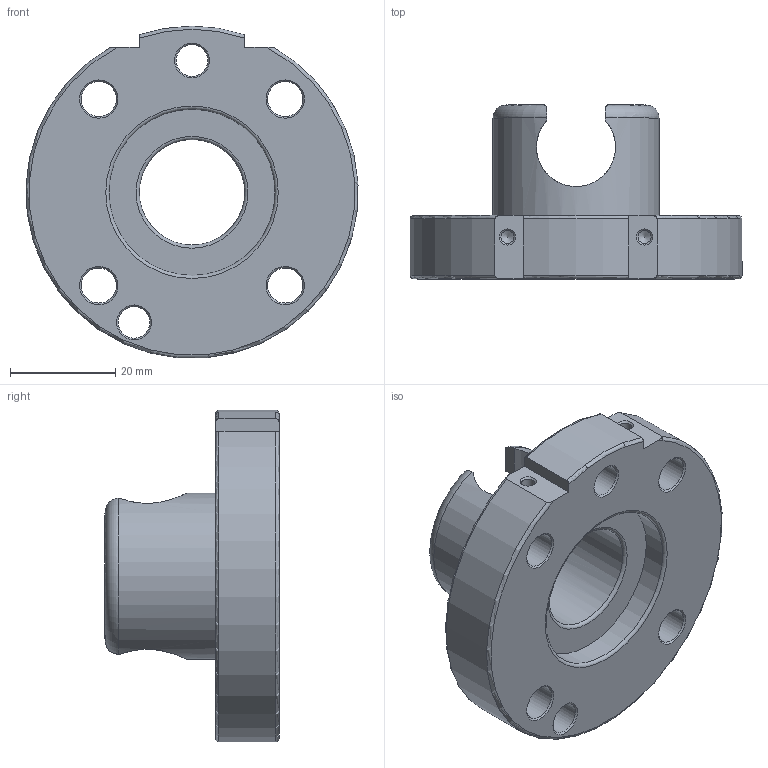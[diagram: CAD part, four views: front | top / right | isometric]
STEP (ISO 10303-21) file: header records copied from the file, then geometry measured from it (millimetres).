
FILE_DESCRIPTION(/* description */ ('G-SHW063-Unterteil'),/* implementation_level */ '2;1');
FILE_NAME(/* name */ '\\dc01\Daten\CAD\Standard\Daten\3D-Datenbank\SHW\4 - 3D-CAD-Daten SHW\SHW063\step-Daten\G-SHW063-2UE Vereinfachung.stp',/* time_stamp */ '2020-05-18T16:49:58+02:00',/* author */ ('GRIP'),/* organization */ (''),/* preprocessor_version */ 'ST-DEVELOPER v17',/* originating_system */ 'Autodesk Inventor 2018',/* authorisation */ '');
FILE_SCHEMA (('AUTOMOTIVE_DESIGN { 1 0 10303 214 3 1 1 }'));
Length unit declared in the file: millimetre
Products named in the file (1): G-SHW063-2UE Vereinfachung
Bounding box: 62.94 x 33 x 62.89 mm (x, y, z)
Volume: 34414.3 mm3; surface area: 13139.8 mm2
Topology: 1 solids, 1 shells, 66 faces, 181 edges, 122 vertices
Faces by surface type: plane 21, cylinder 19, cone 16, torus 10
Full cylindrical faces by diameter (mm): 2.459 x2, 6 x2, 6.647 x4, 11 x4, 20 x1, 31.5 x2
Entity records: 2498 total; most frequent: CARTESIAN_POINT 722, DIRECTION 371, ORIENTED_EDGE 358, EDGE_CURVE 179, AXIS2_PLACEMENT_3D 153, VERTEX_POINT 122, EDGE_LOOP 87, CIRCLE 86
